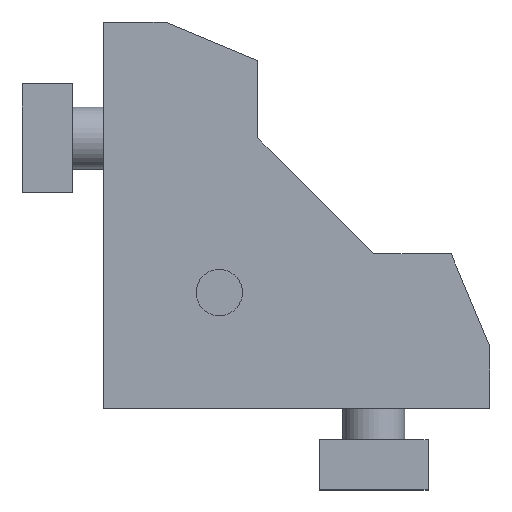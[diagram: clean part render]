
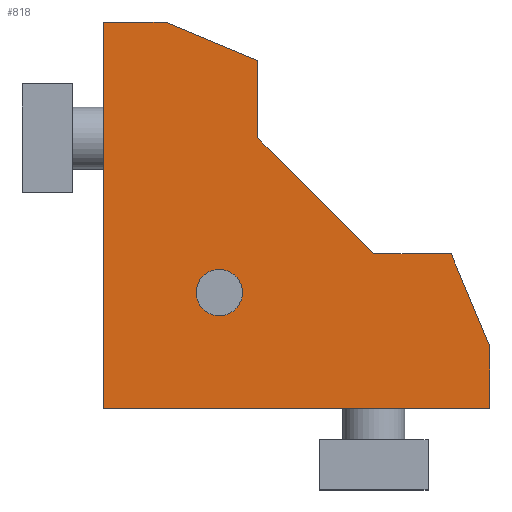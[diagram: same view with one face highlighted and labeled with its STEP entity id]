
A CAD part, top view. The second image highlights one B-rep face of the part: STEP entity #818.
In plain terms, the highlighted planar face has unit normal (0, 0, 1).
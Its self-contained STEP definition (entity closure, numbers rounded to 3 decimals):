
#168=CARTESIAN_POINT('',(18.0,15.0,15.0));
#169=VERTEX_POINT('',#168);
#170=CARTESIAN_POINT('',(15.0,15.0,15.0));
#171=DIRECTION('',(0.0,0.0,-1.0));
#172=DIRECTION('',(1.0,0.0,0.0));
#173=AXIS2_PLACEMENT_3D('',#170,#171,#172);
#174=CIRCLE('',#173,3.);
#175=EDGE_CURVE('',#169,#169,#174,.T.);
#398=CARTESIAN_POINT('',(50.0,8.0,15.0));
#399=VERTEX_POINT('',#398);
#406=CARTESIAN_POINT('',(50.0,0.0,15.0));
#407=VERTEX_POINT('',#406);
#408=CARTESIAN_POINT('',(50.0,8.0,15.0));
#409=DIRECTION('',(0.0,-1.0,0.0));
#410=VECTOR('',#409,8.0);
#411=LINE('',#408,#410);
#412=EDGE_CURVE('',#399,#407,#411,.T.);
#445=CARTESIAN_POINT('',(45.0,20.0,15.0));
#446=VERTEX_POINT('',#445);
#453=CARTESIAN_POINT('',(45.0,20.0,15.0));
#454=DIRECTION('',(0.385,-0.923,0.0));
#455=VECTOR('',#454,13.0);
#456=LINE('',#453,#455);
#457=EDGE_CURVE('',#446,#399,#456,.T.);
#476=CARTESIAN_POINT('',(35.0,20.0,15.0));
#477=VERTEX_POINT('',#476);
#484=CARTESIAN_POINT('',(35.0,20.0,15.0));
#485=DIRECTION('',(1.0,0.0,0.0));
#486=VECTOR('',#485,10.0);
#487=LINE('',#484,#486);
#488=EDGE_CURVE('',#477,#446,#487,.T.);
#507=CARTESIAN_POINT('',(20.0,35.0,15.0));
#508=VERTEX_POINT('',#507);
#515=CARTESIAN_POINT('',(20.0,35.0,15.0));
#516=DIRECTION('',(0.707,-0.707,0.0));
#517=VECTOR('',#516,21.213);
#518=LINE('',#515,#517);
#519=EDGE_CURVE('',#508,#477,#518,.T.);
#538=CARTESIAN_POINT('',(20.0,45.0,15.0));
#539=VERTEX_POINT('',#538);
#546=CARTESIAN_POINT('',(20.0,45.0,15.0));
#547=DIRECTION('',(0.0,-1.0,0.0));
#548=VECTOR('',#547,10.0);
#549=LINE('',#546,#548);
#550=EDGE_CURVE('',#539,#508,#549,.T.);
#569=CARTESIAN_POINT('',(8.,50.0,15.0));
#570=VERTEX_POINT('',#569);
#577=CARTESIAN_POINT('',(8.,50.0,15.0));
#578=DIRECTION('',(0.923,-0.385,0.0));
#579=VECTOR('',#578,13.);
#580=LINE('',#577,#579);
#581=EDGE_CURVE('',#570,#539,#580,.T.);
#600=CARTESIAN_POINT('',(0.,50.0,15.0));
#601=VERTEX_POINT('',#600);
#608=CARTESIAN_POINT('',(0.,50.0,15.0));
#609=DIRECTION('',(1.0,0.0,0.0));
#610=VECTOR('',#609,8.);
#611=LINE('',#608,#610);
#612=EDGE_CURVE('',#601,#570,#611,.T.);
#757=CARTESIAN_POINT('',(0.0,0.0,15.0));
#758=VERTEX_POINT('',#757);
#759=CARTESIAN_POINT('',(0.0,0.0,15.0));
#760=DIRECTION('',(0.0,1.0,0.0));
#761=VECTOR('',#760,50.0);
#762=LINE('',#759,#761);
#763=EDGE_CURVE('',#758,#601,#762,.T.);
#784=CARTESIAN_POINT('',(50.0,0.0,15.0));
#785=DIRECTION('',(-1.0,0.0,0.0));
#786=VECTOR('',#785,50.0);
#787=LINE('',#784,#786);
#788=EDGE_CURVE('',#407,#758,#787,.T.);
#799=CARTESIAN_POINT('',(20.003,20.003,15.0));
#800=DIRECTION('',(0.0,0.0,1.0));
#801=DIRECTION('',(1.0,0.0,0.0));
#802=AXIS2_PLACEMENT_3D('',#799,#800,#801);
#803=PLANE('',#802);
#804=ORIENTED_EDGE('',*,*,#763,.F.);
#805=ORIENTED_EDGE('',*,*,#788,.F.);
#806=ORIENTED_EDGE('',*,*,#412,.F.);
#807=ORIENTED_EDGE('',*,*,#457,.F.);
#808=ORIENTED_EDGE('',*,*,#488,.F.);
#809=ORIENTED_EDGE('',*,*,#519,.F.);
#810=ORIENTED_EDGE('',*,*,#550,.F.);
#811=ORIENTED_EDGE('',*,*,#581,.F.);
#812=ORIENTED_EDGE('',*,*,#612,.F.);
#813=EDGE_LOOP('',(#804,#805,#806,#807,#808,#809,#810,#811,#812));
#814=FACE_OUTER_BOUND('',#813,.T.);
#815=ORIENTED_EDGE('',*,*,#175,.T.);
#816=EDGE_LOOP('',(#815));
#817=FACE_BOUND('',#816,.T.);
#818=ADVANCED_FACE('',(#814,#817),#803,.T.);
